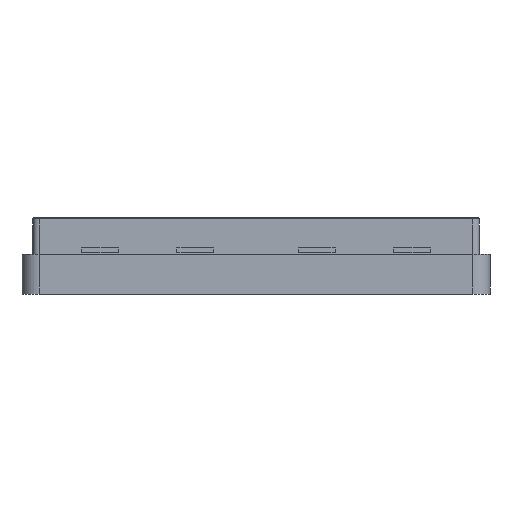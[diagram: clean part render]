
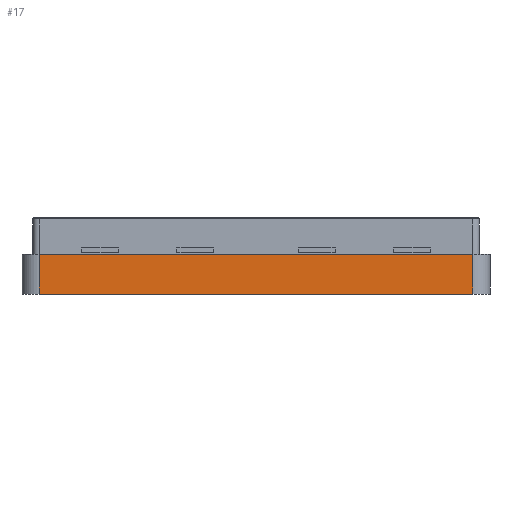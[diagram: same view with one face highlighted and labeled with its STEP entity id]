
A CAD part, left-side view. The second image highlights one B-rep face of the part: STEP entity #17.
In plain terms, the highlighted free-form (B-spline) face has degree [1, 1] with [2, 2] control points.
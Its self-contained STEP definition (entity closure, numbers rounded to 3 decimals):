
#17 = ADVANCED_FACE('',(#18),#31,.F.);
#18 = FACE_BOUND('',#19,.F.);
#19 = EDGE_LOOP('',(#20,#52,#80,#105));
#20 = ORIENTED_EDGE('',*,*,#21,.F.);
#21 = EDGE_CURVE('',#22,#24,#26,.T.);
#22 = VERTEX_POINT('',#23);
#23 = CARTESIAN_POINT('',(-54.,-50.,9.2));
#24 = VERTEX_POINT('',#25);
#25 = CARTESIAN_POINT('',(-54.,50.,9.2));
#26 = SURFACE_CURVE('',#27,(#30,#41),.PCURVE_S1.);
#27 = B_SPLINE_CURVE_WITH_KNOTS('',1,(#28,#29),.UNSPECIFIED.,.F.,.F.,(2,
    2),(4.,104.),.PIECEWISE_BEZIER_KNOTS.);
#28 = CARTESIAN_POINT('',(-54.,-50.,9.2));
#29 = CARTESIAN_POINT('',(-54.,50.,9.2));
#30 = PCURVE('',#31,#36);
#31 = B_SPLINE_SURFACE_WITH_KNOTS('',1,1,(
    (#32,#33)
    ,(#34,#35
    )),.UNSPECIFIED.,.F.,.F.,.F.,(2,2),(2,2),(0.,9.2),(-104.,-4.),
  .PIECEWISE_BEZIER_KNOTS.);
#32 = CARTESIAN_POINT('',(-54.,50.,0.));
#33 = CARTESIAN_POINT('',(-54.,-50.,0.));
#34 = CARTESIAN_POINT('',(-54.,50.,9.2));
#35 = CARTESIAN_POINT('',(-54.,-50.,9.2));
#36 = DEFINITIONAL_REPRESENTATION('',(#37),#40);
#37 = B_SPLINE_CURVE_WITH_KNOTS('',1,(#38,#39),.UNSPECIFIED.,.F.,.F.,(2,
    2),(4.,104.),.PIECEWISE_BEZIER_KNOTS.);
#38 = CARTESIAN_POINT('',(9.2,-4.));
#39 = CARTESIAN_POINT('',(9.2,-104.));
#40 = ( GEOMETRIC_REPRESENTATION_CONTEXT(2) 
PARAMETRIC_REPRESENTATION_CONTEXT() REPRESENTATION_CONTEXT('2D SPACE',''
  ) );
#41 = PCURVE('',#42,#47);
#42 = B_SPLINE_SURFACE_WITH_KNOTS('',1,1,(
    (#43,#44)
    ,(#45,#46
    )),.UNSPECIFIED.,.F.,.F.,.F.,(2,2),(2,2),(0.,108.),(0.,108.),
  .PIECEWISE_BEZIER_KNOTS.);
#43 = CARTESIAN_POINT('',(-54.,-54.,9.2));
#44 = CARTESIAN_POINT('',(-54.,54.,9.2));
#45 = CARTESIAN_POINT('',(54.,-54.,9.2));
#46 = CARTESIAN_POINT('',(54.,54.,9.2));
#47 = DEFINITIONAL_REPRESENTATION('',(#48),#51);
#48 = B_SPLINE_CURVE_WITH_KNOTS('',1,(#49,#50),.UNSPECIFIED.,.F.,.F.,(2,
    2),(4.,104.),.PIECEWISE_BEZIER_KNOTS.);
#49 = CARTESIAN_POINT('',(0.,4.));
#50 = CARTESIAN_POINT('',(0.,104.));
#51 = ( GEOMETRIC_REPRESENTATION_CONTEXT(2) 
PARAMETRIC_REPRESENTATION_CONTEXT() REPRESENTATION_CONTEXT('2D SPACE',''
  ) );
#52 = ORIENTED_EDGE('',*,*,#53,.F.);
#53 = EDGE_CURVE('',#54,#22,#56,.T.);
#54 = VERTEX_POINT('',#55);
#55 = CARTESIAN_POINT('',(-54.,-50.,0.));
#56 = SURFACE_CURVE('',#57,(#60,#66),.PCURVE_S1.);
#57 = B_SPLINE_CURVE_WITH_KNOTS('',1,(#58,#59),.UNSPECIFIED.,.F.,.F.,(2,
    2),(0.,9.2),.PIECEWISE_BEZIER_KNOTS.);
#58 = CARTESIAN_POINT('',(-54.,-50.,0.));
#59 = CARTESIAN_POINT('',(-54.,-50.,9.2));
#60 = PCURVE('',#31,#61);
#61 = DEFINITIONAL_REPRESENTATION('',(#62),#65);
#62 = B_SPLINE_CURVE_WITH_KNOTS('',1,(#63,#64),.UNSPECIFIED.,.F.,.F.,(2,
    2),(0.,9.2),.PIECEWISE_BEZIER_KNOTS.);
#63 = CARTESIAN_POINT('',(0.,-4.));
#64 = CARTESIAN_POINT('',(9.2,-4.));
#65 = ( GEOMETRIC_REPRESENTATION_CONTEXT(2) 
PARAMETRIC_REPRESENTATION_CONTEXT() REPRESENTATION_CONTEXT('2D SPACE',''
  ) );
#66 = PCURVE('',#67,#74);
#67 = ( BOUNDED_SURFACE() B_SPLINE_SURFACE(2,1,(
    (#68,#69)
    ,(#70,#71)
,(#72,#73
  )),.UNSPECIFIED.,.F.,.F.,.F.) B_SPLINE_SURFACE_WITH_KNOTS((3,3),(2,2),
  (0.,1.571),(0.,9.2),.PIECEWISE_BEZIER_KNOTS.) 
GEOMETRIC_REPRESENTATION_ITEM() RATIONAL_B_SPLINE_SURFACE((
    (1.,1.)
    ,(0.707,0.707)
,(1.,1.))) REPRESENTATION_ITEM('') SURFACE() );
#68 = CARTESIAN_POINT('',(-54.,-50.,0.));
#69 = CARTESIAN_POINT('',(-54.,-50.,9.2));
#70 = CARTESIAN_POINT('',(-54.,-54.,0.));
#71 = CARTESIAN_POINT('',(-54.,-54.,9.2));
#72 = CARTESIAN_POINT('',(-50.,-54.,0.));
#73 = CARTESIAN_POINT('',(-50.,-54.,9.2));
#74 = DEFINITIONAL_REPRESENTATION('',(#75),#79);
#75 = B_SPLINE_CURVE_WITH_KNOTS('',2,(#76,#77,#78),.UNSPECIFIED.,.F.,.F.
  ,(3,3),(0.,9.2),.PIECEWISE_BEZIER_KNOTS.);
#76 = CARTESIAN_POINT('',(0.,0.));
#77 = CARTESIAN_POINT('',(0.,4.6));
#78 = CARTESIAN_POINT('',(0.,9.2));
#79 = ( GEOMETRIC_REPRESENTATION_CONTEXT(2) 
PARAMETRIC_REPRESENTATION_CONTEXT() REPRESENTATION_CONTEXT('2D SPACE',''
  ) );
#80 = ORIENTED_EDGE('',*,*,#81,.T.);
#81 = EDGE_CURVE('',#54,#82,#84,.T.);
#82 = VERTEX_POINT('',#83);
#83 = CARTESIAN_POINT('',(-54.,50.,0.));
#84 = SURFACE_CURVE('',#85,(#88,#94),.PCURVE_S1.);
#85 = B_SPLINE_CURVE_WITH_KNOTS('',1,(#86,#87),.UNSPECIFIED.,.F.,.F.,(2,
    2),(4.,104.),.PIECEWISE_BEZIER_KNOTS.);
#86 = CARTESIAN_POINT('',(-54.,-50.,0.));
#87 = CARTESIAN_POINT('',(-54.,50.,0.));
#88 = PCURVE('',#31,#89);
#89 = DEFINITIONAL_REPRESENTATION('',(#90),#93);
#90 = B_SPLINE_CURVE_WITH_KNOTS('',1,(#91,#92),.UNSPECIFIED.,.F.,.F.,(2,
    2),(4.,104.),.PIECEWISE_BEZIER_KNOTS.);
#91 = CARTESIAN_POINT('',(0.,-4.));
#92 = CARTESIAN_POINT('',(0.,-104.));
#93 = ( GEOMETRIC_REPRESENTATION_CONTEXT(2) 
PARAMETRIC_REPRESENTATION_CONTEXT() REPRESENTATION_CONTEXT('2D SPACE',''
  ) );
#94 = PCURVE('',#95,#100);
#95 = B_SPLINE_SURFACE_WITH_KNOTS('',1,1,(
    (#96,#97)
    ,(#98,#99
    )),.UNSPECIFIED.,.F.,.F.,.F.,(2,2),(2,2),(0.,108.),(0.,108.),
  .PIECEWISE_BEZIER_KNOTS.);
#96 = CARTESIAN_POINT('',(-54.,-54.,0.));
#97 = CARTESIAN_POINT('',(-54.,54.,0.));
#98 = CARTESIAN_POINT('',(54.,-54.,0.));
#99 = CARTESIAN_POINT('',(54.,54.,0.));
#100 = DEFINITIONAL_REPRESENTATION('',(#101),#104);
#101 = B_SPLINE_CURVE_WITH_KNOTS('',1,(#102,#103),.UNSPECIFIED.,.F.,.F.,
  (2,2),(4.,104.),.PIECEWISE_BEZIER_KNOTS.);
#102 = CARTESIAN_POINT('',(0.,4.));
#103 = CARTESIAN_POINT('',(0.,104.));
#104 = ( GEOMETRIC_REPRESENTATION_CONTEXT(2) 
PARAMETRIC_REPRESENTATION_CONTEXT() REPRESENTATION_CONTEXT('2D SPACE',''
  ) );
#105 = ORIENTED_EDGE('',*,*,#106,.T.);
#106 = EDGE_CURVE('',#82,#24,#107,.T.);
#107 = SURFACE_CURVE('',#108,(#111,#117),.PCURVE_S1.);
#108 = B_SPLINE_CURVE_WITH_KNOTS('',1,(#109,#110),.UNSPECIFIED.,.F.,.F.,
  (2,2),(0.,9.2),.PIECEWISE_BEZIER_KNOTS.);
#109 = CARTESIAN_POINT('',(-54.,50.,0.));
#110 = CARTESIAN_POINT('',(-54.,50.,9.2));
#111 = PCURVE('',#31,#112);
#112 = DEFINITIONAL_REPRESENTATION('',(#113),#116);
#113 = B_SPLINE_CURVE_WITH_KNOTS('',1,(#114,#115),.UNSPECIFIED.,.F.,.F.,
  (2,2),(0.,9.2),.PIECEWISE_BEZIER_KNOTS.);
#114 = CARTESIAN_POINT('',(0.,-104.));
#115 = CARTESIAN_POINT('',(9.2,-104.));
#116 = ( GEOMETRIC_REPRESENTATION_CONTEXT(2) 
PARAMETRIC_REPRESENTATION_CONTEXT() REPRESENTATION_CONTEXT('2D SPACE',''
  ) );
#117 = PCURVE('',#118,#125);
#118 = ( BOUNDED_SURFACE() B_SPLINE_SURFACE(2,1,(
    (#119,#120)
    ,(#121,#122)
,(#123,#124
    )),.UNSPECIFIED.,.F.,.F.,.F.) B_SPLINE_SURFACE_WITH_KNOTS((3,3),(2,2
    ),(0.,1.571),(0.,9.2),.PIECEWISE_BEZIER_KNOTS.) 
GEOMETRIC_REPRESENTATION_ITEM() RATIONAL_B_SPLINE_SURFACE((
    (1.,1.)
    ,(0.707,0.707)
,(1.,1.))) REPRESENTATION_ITEM('') SURFACE() );
#119 = CARTESIAN_POINT('',(-54.,50.,0.));
#120 = CARTESIAN_POINT('',(-54.,50.,9.2));
#121 = CARTESIAN_POINT('',(-54.,54.,0.));
#122 = CARTESIAN_POINT('',(-54.,54.,9.2));
#123 = CARTESIAN_POINT('',(-50.,54.,0.));
#124 = CARTESIAN_POINT('',(-50.,54.,9.2));
#125 = DEFINITIONAL_REPRESENTATION('',(#126),#130);
#126 = B_SPLINE_CURVE_WITH_KNOTS('',2,(#127,#128,#129),.UNSPECIFIED.,.F.
  ,.F.,(3,3),(0.,9.2),.PIECEWISE_BEZIER_KNOTS.);
#127 = CARTESIAN_POINT('',(0.,0.));
#128 = CARTESIAN_POINT('',(0.,4.6));
#129 = CARTESIAN_POINT('',(0.,9.2));
#130 = ( GEOMETRIC_REPRESENTATION_CONTEXT(2) 
PARAMETRIC_REPRESENTATION_CONTEXT() REPRESENTATION_CONTEXT('2D SPACE',''
  ) );
